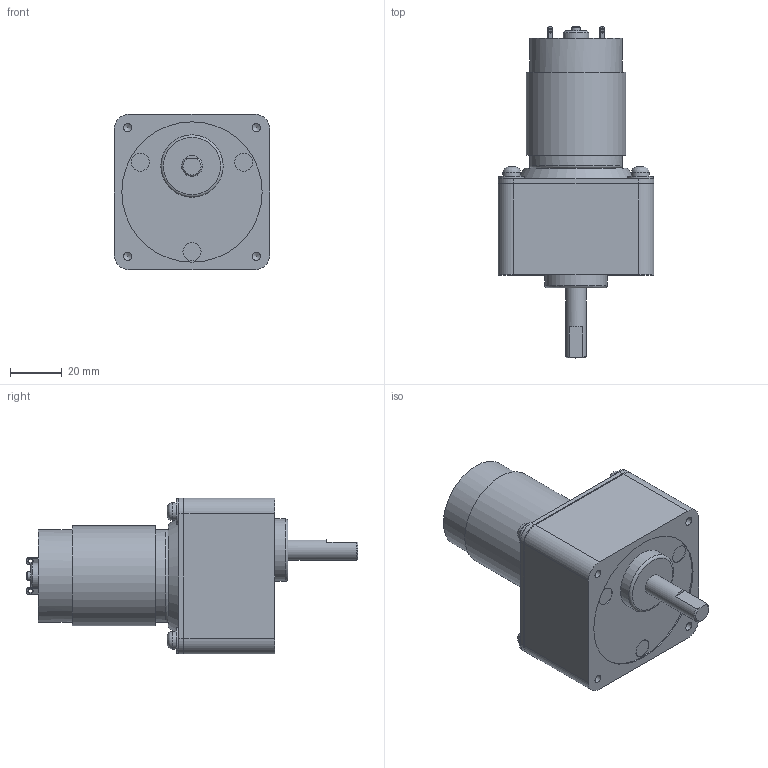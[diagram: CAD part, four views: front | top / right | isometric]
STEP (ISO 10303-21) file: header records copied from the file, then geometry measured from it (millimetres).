
FILE_DESCRIPTION(/* description */ (''),/* implementation_level */ '2;1');
FILE_NAME(/* name */ 'TP-3850#-CM-3.stp',/* time_stamp */ '2023-11-01T13:30:11+09:00',/* author */ ('user'),/* organization */ (''),/* preprocessor_version */ 'ST-DEVELOPER v19.2',/* originating_system */ 'Autodesk Inventor 2024',/* authorisation */ '');
FILE_SCHEMA (('AUTOMOTIVE_DESIGN { 1 0 10303 214 3 1 1 }'));
Length unit declared in the file: millimetre
Products named in the file (3): TP-3850#-CM-15~36-J00-24; cm_3; TP-3850K(RS-645)
Assembly tree (2 placements, depth 2):
  TP-3850#-CM-15~36-J00-24
    cm_3
    TP-3850K(RS-645)
Bounding box: 60 x 127.8 x 60 mm (x, y, z)
Volume: 196231.8 mm3; surface area: 26769.3 mm2
Topology: 2 solids, 2 shells, 158 faces, 349 edges, 230 vertices
Faces by surface type: plane 79, cylinder 55, cone 10, torus 10, bspline 4
Full cylindrical faces by diameter (mm): 1.5 x1, 2.459 x2, 2.5 x5, 3.17 x2, 3.242 x4, 6.8 x4, 7 x3, 7.4 x1, 8 x1, 9.8 x5, 11 x1, 13 x1, 24 x1, 34.8 x1, 35.8 x1, 54 x1
Entity records: 4666 total; most frequent: CARTESIAN_POINT 844, DIRECTION 820, ORIENTED_EDGE 686, EDGE_CURVE 343, AXIS2_PLACEMENT_3D 320, VERTEX_POINT 230, EDGE_LOOP 203, LINE 180
